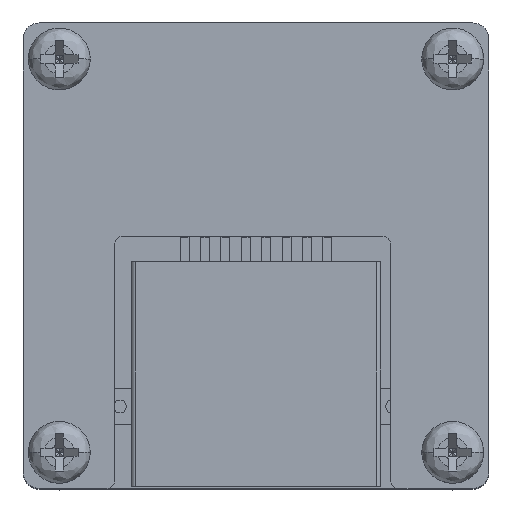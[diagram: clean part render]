
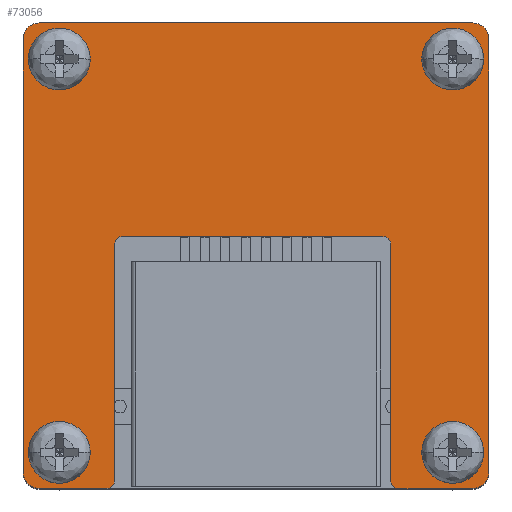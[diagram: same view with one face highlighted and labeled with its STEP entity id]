
A CAD part, top view. The second image highlights one B-rep face of the part: STEP entity #73056.
In plain terms, the highlighted planar face has unit normal (0, 0, 1).
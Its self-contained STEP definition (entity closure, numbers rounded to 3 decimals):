
#4579=CARTESIAN_POINT('',(-9.3,-14.,19.5));
#4580=DIRECTION('',(0.,0.,-1.));
#4581=DIRECTION('',(1.,0.,0.));
#4582=AXIS2_PLACEMENT_3D('',#4579,#4580,#4581);
#4584=CARTESIAN_POINT('',(-13.5,-13.5,19.5));
#4585=DIRECTION('',(0.,0.,-1.));
#4586=DIRECTION('',(0.,-1.,0.));
#4587=AXIS2_PLACEMENT_3D('',#4584,#4585,#4586);
#4589=CARTESIAN_POINT('',(-13.5,13.5,19.5));
#4590=DIRECTION('',(0.,0.,-1.));
#4591=DIRECTION('',(-1.,0.,0.));
#4592=AXIS2_PLACEMENT_3D('',#4589,#4590,#4591);
#4594=CARTESIAN_POINT('',(13.5,13.5,19.5));
#4595=DIRECTION('',(0.,0.,-1.));
#4596=DIRECTION('',(0.,1.,0.));
#4597=AXIS2_PLACEMENT_3D('',#4594,#4595,#4596);
#4599=CARTESIAN_POINT('',(13.5,-13.5,19.5));
#4600=DIRECTION('',(0.,0.,-1.));
#4601=DIRECTION('',(1.,0.,0.));
#4602=AXIS2_PLACEMENT_3D('',#4599,#4600,#4601);
#4604=CARTESIAN_POINT('',(8.9,-14.,19.5));
#4605=DIRECTION('',(0.,0.,-1.));
#4606=DIRECTION('',(0.,-1.,0.));
#4607=AXIS2_PLACEMENT_3D('',#4604,#4605,#4606);
#4609=CARTESIAN_POINT('',(7.9,0.7,19.5));
#4610=DIRECTION('',(0.,0.,1.));
#4611=DIRECTION('',(1.,0.,0.));
#4612=AXIS2_PLACEMENT_3D('',#4609,#4610,#4611);
#4614=CARTESIAN_POINT('',(-8.3,0.7,19.5));
#4615=DIRECTION('',(0.,0.,1.));
#4616=DIRECTION('',(0.,1.,0.));
#4617=AXIS2_PLACEMENT_3D('',#4614,#4615,#4616);
#4619=CARTESIAN_POINT('',(-12.25,12.25,19.5));
#4620=DIRECTION('',(0.,0.,1.));
#4621=DIRECTION('',(-1.,0.,0.));
#4622=AXIS2_PLACEMENT_3D('',#4619,#4620,#4621);
#4624=CARTESIAN_POINT('',(-12.25,12.25,19.5));
#4625=DIRECTION('',(0.,0.,1.));
#4626=DIRECTION('',(1.,0.,0.));
#4627=AXIS2_PLACEMENT_3D('',#4624,#4625,#4626);
#4629=CARTESIAN_POINT('',(-12.25,-12.25,19.5));
#4630=DIRECTION('',(0.,0.,1.));
#4631=DIRECTION('',(-1.,0.,0.));
#4632=AXIS2_PLACEMENT_3D('',#4629,#4630,#4631);
#4634=CARTESIAN_POINT('',(-12.25,-12.25,19.5));
#4635=DIRECTION('',(0.,0.,1.));
#4636=DIRECTION('',(1.,0.,0.));
#4637=AXIS2_PLACEMENT_3D('',#4634,#4635,#4636);
#4639=CARTESIAN_POINT('',(12.25,12.25,19.5));
#4640=DIRECTION('',(0.,0.,1.));
#4641=DIRECTION('',(-1.,0.,0.));
#4642=AXIS2_PLACEMENT_3D('',#4639,#4640,#4641);
#4644=CARTESIAN_POINT('',(12.25,12.25,19.5));
#4645=DIRECTION('',(0.,0.,1.));
#4646=DIRECTION('',(1.,0.,0.));
#4647=AXIS2_PLACEMENT_3D('',#4644,#4645,#4646);
#4649=CARTESIAN_POINT('',(12.25,-12.25,19.5));
#4650=DIRECTION('',(0.,0.,1.));
#4651=DIRECTION('',(-1.,0.,0.));
#4652=AXIS2_PLACEMENT_3D('',#4649,#4650,#4651);
#4654=CARTESIAN_POINT('',(12.25,-12.25,19.5));
#4655=DIRECTION('',(0.,0.,1.));
#4656=DIRECTION('',(1.,0.,0.));
#4657=AXIS2_PLACEMENT_3D('',#4654,#4655,#4656);
#4667=DIRECTION('',(1.,0.,0.));
#4668=VECTOR('',#4667,4.2);
#4669=CARTESIAN_POINT('',(-13.5,-14.5,19.5));
#4670=LINE('',#4669,#4668);
#4675=DIRECTION('',(0.,-1.,0.));
#4676=VECTOR('',#4675,27.);
#4677=CARTESIAN_POINT('',(-14.5,13.5,19.5));
#4678=LINE('',#4677,#4676);
#4699=DIRECTION('',(-1.,0.,0.));
#4700=VECTOR('',#4699,27.);
#4701=CARTESIAN_POINT('',(13.5,14.5,19.5));
#4702=LINE('',#4701,#4700);
#4715=DIRECTION('',(0.,1.,0.));
#4716=VECTOR('',#4715,27.);
#4717=CARTESIAN_POINT('',(14.5,-13.5,19.5));
#4718=LINE('',#4717,#4716);
#4723=DIRECTION('',(1.,0.,0.));
#4724=VECTOR('',#4723,4.6);
#4725=CARTESIAN_POINT('',(8.9,-14.5,19.5));
#4726=LINE('',#4725,#4724);
#4747=DIRECTION('',(0.,-1.,0.));
#4748=VECTOR('',#4747,14.7);
#4749=CARTESIAN_POINT('',(8.4,0.7,19.5));
#4750=LINE('',#4749,#4748);
#4755=DIRECTION('',(1.,0.,0.));
#4756=VECTOR('',#4755,16.2);
#4757=CARTESIAN_POINT('',(-8.3,1.2,19.5));
#4758=LINE('',#4757,#4756);
#4775=DIRECTION('',(0.,1.,0.));
#4776=VECTOR('',#4775,14.7);
#4777=CARTESIAN_POINT('',(-8.8,-14.,19.5));
#4778=LINE('',#4777,#4776);
#55682=CARTESIAN_POINT('',(-8.8,-14.,19.5));
#55683=VERTEX_POINT('',#55682);
#55684=CARTESIAN_POINT('',(-9.3,-14.5,19.5));
#55685=VERTEX_POINT('',#55684);
#55686=CARTESIAN_POINT('',(-13.5,-14.5,19.5));
#55687=VERTEX_POINT('',#55686);
#55688=CARTESIAN_POINT('',(-14.5,-13.5,19.5));
#55689=VERTEX_POINT('',#55688);
#55690=CARTESIAN_POINT('',(-14.5,13.5,19.5));
#55691=VERTEX_POINT('',#55690);
#55692=CARTESIAN_POINT('',(-13.5,14.5,19.5));
#55693=VERTEX_POINT('',#55692);
#55694=CARTESIAN_POINT('',(13.5,14.5,19.5));
#55695=VERTEX_POINT('',#55694);
#55696=CARTESIAN_POINT('',(14.5,13.5,19.5));
#55697=VERTEX_POINT('',#55696);
#55698=CARTESIAN_POINT('',(14.5,-13.5,19.5));
#55699=VERTEX_POINT('',#55698);
#55700=CARTESIAN_POINT('',(13.5,-14.5,19.5));
#55701=VERTEX_POINT('',#55700);
#55702=CARTESIAN_POINT('',(8.9,-14.5,19.5));
#55703=VERTEX_POINT('',#55702);
#55704=CARTESIAN_POINT('',(8.4,-14.,19.5));
#55705=VERTEX_POINT('',#55704);
#55706=CARTESIAN_POINT('',(8.4,0.7,19.5));
#55707=VERTEX_POINT('',#55706);
#55708=CARTESIAN_POINT('',(7.9,1.2,19.5));
#55709=VERTEX_POINT('',#55708);
#55710=CARTESIAN_POINT('',(-8.3,1.2,19.5));
#55711=VERTEX_POINT('',#55710);
#55712=CARTESIAN_POINT('',(-8.8,0.7,19.5));
#55713=VERTEX_POINT('',#55712);
#55714=CARTESIAN_POINT('',(-14.175,12.25,19.5));
#55715=CARTESIAN_POINT('',(-10.325,12.25,19.5));
#55716=VERTEX_POINT('',#55714);
#55717=VERTEX_POINT('',#55715);
#55718=CARTESIAN_POINT('',(-14.175,-12.25,19.5));
#55719=CARTESIAN_POINT('',(-10.325,-12.25,19.5));
#55720=VERTEX_POINT('',#55718);
#55721=VERTEX_POINT('',#55719);
#55722=CARTESIAN_POINT('',(10.325,12.25,19.5));
#55723=CARTESIAN_POINT('',(14.175,12.25,19.5));
#55724=VERTEX_POINT('',#55722);
#55725=VERTEX_POINT('',#55723);
#55726=CARTESIAN_POINT('',(10.325,-12.25,19.5));
#55727=CARTESIAN_POINT('',(14.175,-12.25,19.5));
#55728=VERTEX_POINT('',#55726);
#55729=VERTEX_POINT('',#55727);
#72994=CARTESIAN_POINT('',(0.,0.,19.5));
#72995=DIRECTION('',(0.,0.,1.));
#72996=DIRECTION('',(1.,0.,0.));
#72997=AXIS2_PLACEMENT_3D('',#72994,#72995,#72996);
#72998=PLANE('',#72997);
#72999=ORIENTED_EDGE('',*,*,#72984,.T.);
#73001=ORIENTED_EDGE('',*,*,#73000,.F.);
#73003=ORIENTED_EDGE('',*,*,#73002,.T.);
#73005=ORIENTED_EDGE('',*,*,#73004,.F.);
#73007=ORIENTED_EDGE('',*,*,#73006,.T.);
#73009=ORIENTED_EDGE('',*,*,#73008,.F.);
#73011=ORIENTED_EDGE('',*,*,#73010,.T.);
#73013=ORIENTED_EDGE('',*,*,#73012,.F.);
#73015=ORIENTED_EDGE('',*,*,#73014,.T.);
#73017=ORIENTED_EDGE('',*,*,#73016,.F.);
#73019=ORIENTED_EDGE('',*,*,#73018,.T.);
#73021=ORIENTED_EDGE('',*,*,#73020,.F.);
#73023=ORIENTED_EDGE('',*,*,#73022,.T.);
#73025=ORIENTED_EDGE('',*,*,#73024,.F.);
#73027=ORIENTED_EDGE('',*,*,#73026,.T.);
#73029=ORIENTED_EDGE('',*,*,#73028,.F.);
#73030=EDGE_LOOP('',(#72999,#73001,#73003,#73005,#73007,#73009,#73011,#73013,
#73015,#73017,#73019,#73021,#73023,#73025,#73027,#73029));
#73031=FACE_OUTER_BOUND('',#73030,.F.);
#73033=ORIENTED_EDGE('',*,*,#73032,.T.);
#73035=ORIENTED_EDGE('',*,*,#73034,.T.);
#73036=EDGE_LOOP('',(#73033,#73035));
#73037=FACE_BOUND('',#73036,.F.);
#73039=ORIENTED_EDGE('',*,*,#73038,.T.);
#73041=ORIENTED_EDGE('',*,*,#73040,.T.);
#73042=EDGE_LOOP('',(#73039,#73041));
#73043=FACE_BOUND('',#73042,.F.);
#73045=ORIENTED_EDGE('',*,*,#73044,.T.);
#73047=ORIENTED_EDGE('',*,*,#73046,.T.);
#73048=EDGE_LOOP('',(#73045,#73047));
#73049=FACE_BOUND('',#73048,.F.);
#73051=ORIENTED_EDGE('',*,*,#73050,.T.);
#73053=ORIENTED_EDGE('',*,*,#73052,.T.);
#73054=EDGE_LOOP('',(#73051,#73053));
#73055=FACE_BOUND('',#73054,.F.);
#73056=ADVANCED_FACE('',(#73031,#73037,#73043,#73049,#73055),#72998,.T.);
#4583=CIRCLE('',#4582,0.5);
#4588=CIRCLE('',#4587,1.);
#4593=CIRCLE('',#4592,1.);
#4598=CIRCLE('',#4597,1.);
#4603=CIRCLE('',#4602,1.);
#4608=CIRCLE('',#4607,0.5);
#4613=CIRCLE('',#4612,0.5);
#4618=CIRCLE('',#4617,0.5);
#4623=CIRCLE('',#4622,1.925);
#4628=CIRCLE('',#4627,1.925);
#4633=CIRCLE('',#4632,1.925);
#4638=CIRCLE('',#4637,1.925);
#4643=CIRCLE('',#4642,1.925);
#4648=CIRCLE('',#4647,1.925);
#4653=CIRCLE('',#4652,1.925);
#4658=CIRCLE('',#4657,1.925);
#72984=EDGE_CURVE('',#55683,#55685,#4583,.T.);
#73000=EDGE_CURVE('',#55687,#55685,#4670,.T.);
#73002=EDGE_CURVE('',#55687,#55689,#4588,.T.);
#73004=EDGE_CURVE('',#55691,#55689,#4678,.T.);
#73006=EDGE_CURVE('',#55691,#55693,#4593,.T.);
#73008=EDGE_CURVE('',#55695,#55693,#4702,.T.);
#73010=EDGE_CURVE('',#55695,#55697,#4598,.T.);
#73012=EDGE_CURVE('',#55699,#55697,#4718,.T.);
#73014=EDGE_CURVE('',#55699,#55701,#4603,.T.);
#73016=EDGE_CURVE('',#55703,#55701,#4726,.T.);
#73018=EDGE_CURVE('',#55703,#55705,#4608,.T.);
#73020=EDGE_CURVE('',#55707,#55705,#4750,.T.);
#73022=EDGE_CURVE('',#55707,#55709,#4613,.T.);
#73024=EDGE_CURVE('',#55711,#55709,#4758,.T.);
#73026=EDGE_CURVE('',#55711,#55713,#4618,.T.);
#73028=EDGE_CURVE('',#55683,#55713,#4778,.T.);
#73032=EDGE_CURVE('',#55716,#55717,#4623,.T.);
#73034=EDGE_CURVE('',#55717,#55716,#4628,.T.);
#73038=EDGE_CURVE('',#55720,#55721,#4633,.T.);
#73040=EDGE_CURVE('',#55721,#55720,#4638,.T.);
#73044=EDGE_CURVE('',#55724,#55725,#4643,.T.);
#73046=EDGE_CURVE('',#55725,#55724,#4648,.T.);
#73050=EDGE_CURVE('',#55728,#55729,#4653,.T.);
#73052=EDGE_CURVE('',#55729,#55728,#4658,.T.);
